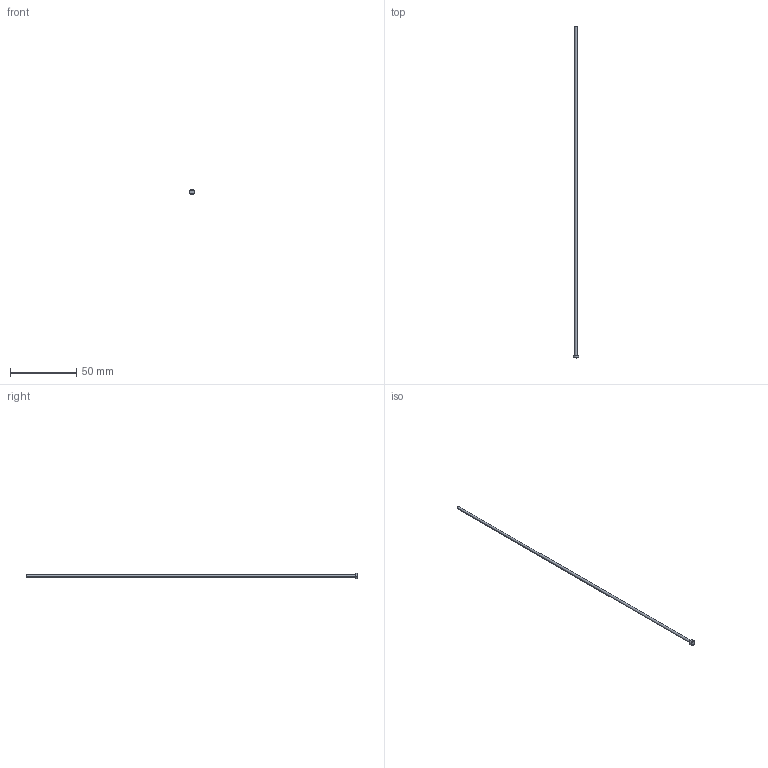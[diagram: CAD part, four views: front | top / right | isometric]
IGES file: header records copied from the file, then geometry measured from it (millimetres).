
Start section: SolidWorks IGES file using analytic representation for surfaces
Global section: file name: C:\Users\User\Downloads\Matripeça 31-08 tar\PB - PINO EXTRATOR TIPO _B_ (CATÁLOGO)\PB02,0\PB02,0250.IGS; native system: SolidWorks 2024; preprocessor: SolidWorks 2024; author: User; date: 260901.140548; units: millimetre
Bounding box: 4 x 250 x 4 mm (x, y, z)
Surface area: 1611.2 mm2 (no closed solid volume)
Topology: 0 solids, 0 shells, 404 faces, 2936 edges, 2936 vertices
Faces by surface type: bspline 390, revolution 14
